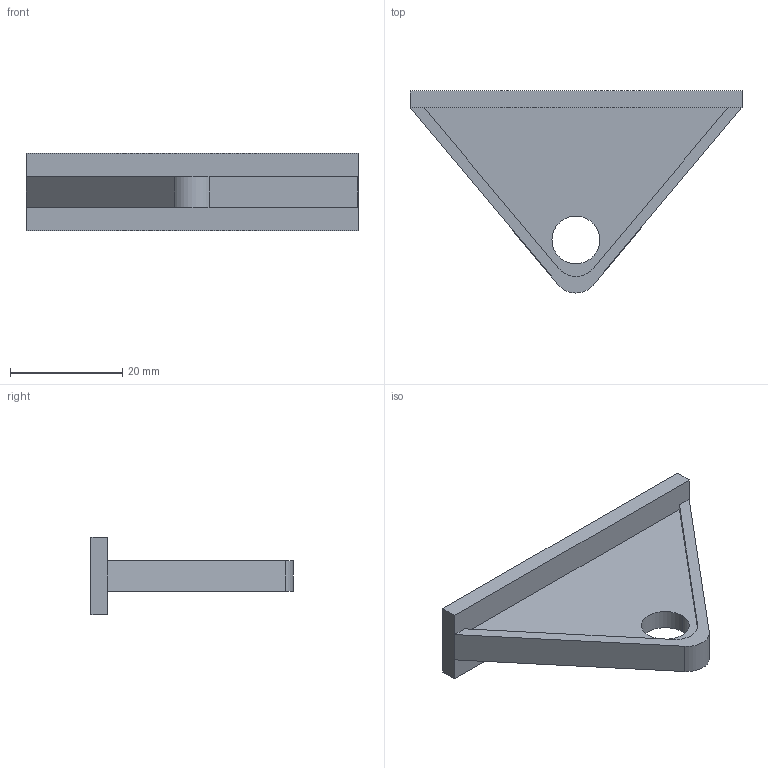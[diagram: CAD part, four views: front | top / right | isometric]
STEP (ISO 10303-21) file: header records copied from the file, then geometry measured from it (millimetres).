
FILE_DESCRIPTION (( 'STEP AP203' ), '1' );
FILE_NAME ('3001.STEP', '2016-04-25T08:57:38', ( 'RosInstal-MKM' ), ( '' ), 'SwSTEP 2.0', 'SolidWorks 2014', '' );
FILE_SCHEMA (( 'CONFIG_CONTROL_DESIGN' ));
Length unit declared in the file: millimetre
Products named in the file (1): 3001
Bounding box: 59.04 x 35.94 x 13.8 mm (x, y, z)
Volume: 6193 mm3; surface area: 4548.8 mm2
Topology: 1 solids, 1 shells, 21 faces, 55 edges, 36 vertices
Faces by surface type: plane 16, cylinder 5
Entity records: 724 total; most frequent: CARTESIAN_POINT 113, ORIENTED_EDGE 110, DIRECTION 109, EDGE_CURVE 55, VECTOR 45, LINE 45, VERTEX_POINT 36, AXIS2_PLACEMENT_3D 32
